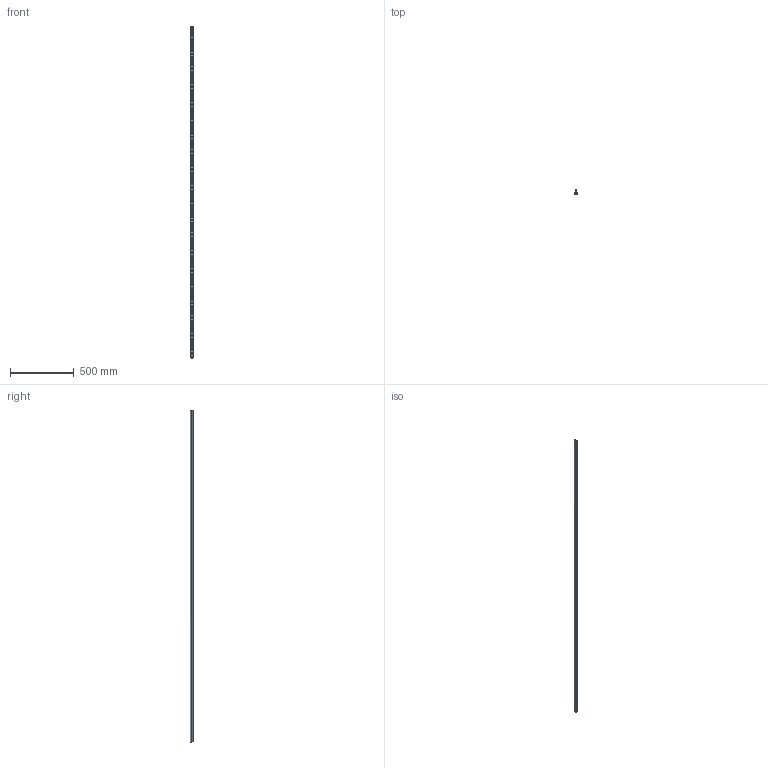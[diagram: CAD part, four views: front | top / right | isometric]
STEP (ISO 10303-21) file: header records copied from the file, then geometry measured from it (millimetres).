
FILE_DESCRIPTION (( 'STEP AP203' ), '1' );
FILE_NAME ('LFS-12-11_-_LFS-12-11 L=2598 - ArtNr 220002 2598.step', '2015-05-04T10:57:13', ( '' ), ( '' ), 'SwSTEP 2.0', 'SolidWorks 2014', '' );
FILE_SCHEMA (( 'CONFIG_CONTROL_DESIGN' ));
Length unit declared in the file: millimetre
Products named in the file (1): LFS-12-11_-_LFS-12-11 L=2598 - ArtNr 220002 2598
Bounding box: 20 x 31 x 2600 mm (x, y, z)
Volume: 785945.9 mm3; surface area: 351241.1 mm2
Topology: 1 solids, 1 shells, 1762 faces, 4712 edges, 3002 vertices
Faces by surface type: cylinder 847, plane 811, cone 52, torus 52
Full cylindrical faces by diameter (mm): 7 x52, 8 x52, 12 x1
Entity records: 56412 total; most frequent: CARTESIAN_POINT 16962, ORIENTED_EDGE 8796, DIRECTION 7125, EDGE_CURVE 4398, VERTEX_POINT 2897, AXIS2_PLACEMENT_3D 2420, VECTOR 2285, LINE 2285
